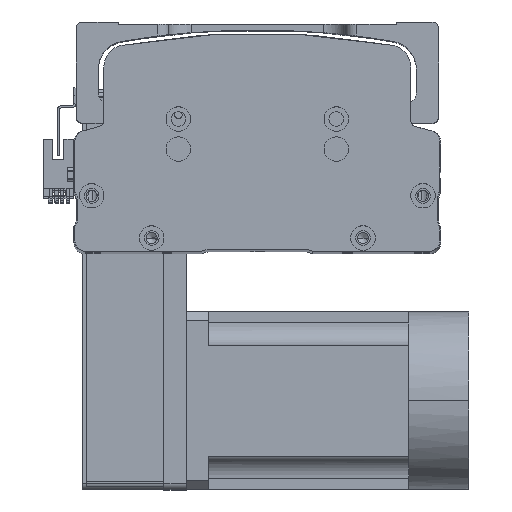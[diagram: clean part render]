
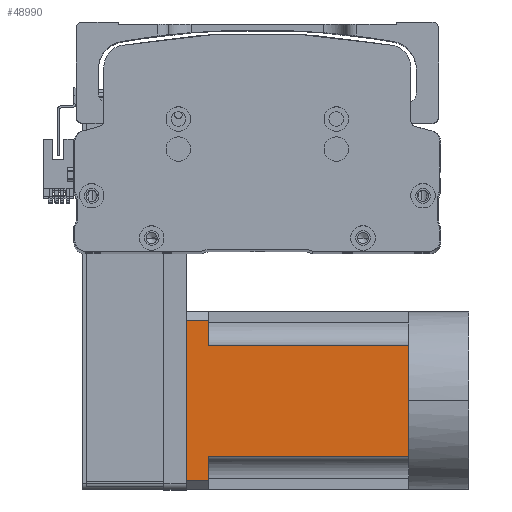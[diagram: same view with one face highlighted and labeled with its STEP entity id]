
A CAD part, top view. The second image highlights one B-rep face of the part: STEP entity #48990.
In plain terms, the highlighted planar face has unit normal (0, 0, 1) as drawn and (0, 0, -1) by its records, which use the part's own axes.
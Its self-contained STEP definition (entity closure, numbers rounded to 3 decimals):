
#1563 = VECTOR ( 'NONE', #43906, 1000. ) ;
#2230 = AXIS2_PLACEMENT_3D ( 'NONE', #14836, #5486, #38635 ) ;
#3800 = EDGE_CURVE ( 'NONE', #37871, #46071, #16933, .T. ) ;
#3891 = CARTESIAN_POINT ( 'NONE',  ( 25., 90., -40. ) ) ;
#4592 = ORIENTED_EDGE ( 'NONE', *, *, #17319, .T. ) ;
#4697 = CARTESIAN_POINT ( 'NONE',  ( -36., -27., -40. ) ) ;
#5486 = DIRECTION ( 'NONE',  ( 0., 0., -1. ) ) ;
#5772 = VECTOR ( 'NONE', #30554, 1000. ) ;
#5973 = CARTESIAN_POINT ( 'NONE',  ( -40., 0., -40. ) ) ;
#6454 = FACE_OUTER_BOUND ( 'NONE', #57874, .T. ) ;
#8564 = EDGE_CURVE ( 'NONE', #19897, #41068, #35132, .T. ) ;
#8619 = ORIENTED_EDGE ( 'NONE', *, *, #3800, .T. ) ;
#9005 = ORIENTED_EDGE ( 'NONE', *, *, #61603, .T. ) ;
#9470 = DIRECTION ( 'NONE',  ( 0., 1., 0. ) ) ;
#9513 = LINE ( 'NONE', #5973, #45843 ) ;
#9682 = ORIENTED_EDGE ( 'NONE', *, *, #59710, .T. ) ;
#9912 = VECTOR ( 'NONE', #37597, 1000. ) ;
#13191 = CARTESIAN_POINT ( 'NONE',  ( -25., 0., -40. ) ) ;
#13345 = VECTOR ( 'NONE', #50469, 1000. ) ;
#14814 = LINE ( 'NONE', #45687, #13345 ) ;
#14836 = CARTESIAN_POINT ( 'NONE',  ( -40., -27., -40. ) ) ;
#14848 = ORIENTED_EDGE ( 'NONE', *, *, #24621, .T. ) ;
#15695 = LINE ( 'NONE', #20744, #61133 ) ;
#16933 = LINE ( 'NONE', #17780, #40633 ) ;
#17319 = EDGE_CURVE ( 'NONE', #21245, #28113, #14814, .T. ) ;
#17780 = CARTESIAN_POINT ( 'NONE',  ( -40., 90., -40. ) ) ;
#19897 = VERTEX_POINT ( 'NONE', #44346 ) ;
#20744 = CARTESIAN_POINT ( 'NONE',  ( -40., 90., -40. ) ) ;
#21245 = VERTEX_POINT ( 'NONE', #28079 ) ;
#22534 = LINE ( 'NONE', #27921, #9912 ) ;
#22603 = VECTOR ( 'NONE', #9470, 1000. ) ;
#24404 = PLANE ( 'NONE',  #2230 ) ;
#24621 = EDGE_CURVE ( 'NONE', #46071, #25773, #52090, .T. ) ;
#25115 = CARTESIAN_POINT ( 'NONE',  ( -25., 90., -40. ) ) ;
#25513 = DIRECTION ( 'NONE',  ( -1., 0., 0. ) ) ;
#25773 = VERTEX_POINT ( 'NONE', #47344 ) ;
#27921 = CARTESIAN_POINT ( 'NONE',  ( -40., 100., -40. ) ) ;
#28079 = CARTESIAN_POINT ( 'NONE',  ( 0., 0., -40. ) ) ;
#28113 = VERTEX_POINT ( 'NONE', #13191 ) ;
#30554 = DIRECTION ( 'NONE',  ( 0., 1., 0. ) ) ;
#31001 = LINE ( 'NONE', #49404, #5772 ) ;
#31852 = CARTESIAN_POINT ( 'NONE',  ( -36., 100., -40. ) ) ;
#33396 = VERTEX_POINT ( 'NONE', #25115 ) ;
#33452 = EDGE_CURVE ( 'NONE', #33396, #19897, #15695, .T. ) ;
#33739 = CARTESIAN_POINT ( 'NONE',  ( 36., 90., -40. ) ) ;
#35132 = LINE ( 'NONE', #4697, #22603 ) ;
#37597 = DIRECTION ( 'NONE',  ( -1., 0., 0. ) ) ;
#37871 = VERTEX_POINT ( 'NONE', #33739 ) ;
#37876 = CARTESIAN_POINT ( 'NONE',  ( 36., 100., -40. ) ) ;
#38635 = DIRECTION ( 'NONE',  ( -1., 0., 0. ) ) ;
#38801 = EDGE_CURVE ( 'NONE', #60867, #41068, #22534, .T. ) ;
#39142 = CARTESIAN_POINT ( 'NONE',  ( 25., -27., -40. ) ) ;
#40633 = VECTOR ( 'NONE', #60385, 1000. ) ;
#41068 = VERTEX_POINT ( 'NONE', #31852 ) ;
#41721 = ORIENTED_EDGE ( 'NONE', *, *, #48543, .T. ) ;
#43906 = DIRECTION ( 'NONE',  ( 0., -1., 0. ) ) ;
#44346 = CARTESIAN_POINT ( 'NONE',  ( -36., 90., -40. ) ) ;
#45145 = ORIENTED_EDGE ( 'NONE', *, *, #33452, .T. ) ;
#45687 = CARTESIAN_POINT ( 'NONE',  ( -40., 0., -40. ) ) ;
#45843 = VECTOR ( 'NONE', #53499, 1000. ) ;
#46071 = VERTEX_POINT ( 'NONE', #3891 ) ;
#46255 = ORIENTED_EDGE ( 'NONE', *, *, #38801, .F. ) ;
#47344 = CARTESIAN_POINT ( 'NONE',  ( 25., 0., -40. ) ) ;
#48349 = LINE ( 'NONE', #51907, #59580 ) ;
#48543 = EDGE_CURVE ( 'NONE', #25773, #21245, #9513, .T. ) ;
#48990 = ADVANCED_FACE ( 'NONE', ( #6454 ), #24404, .T. ) ;
#49404 = CARTESIAN_POINT ( 'NONE',  ( -25., -27., -40. ) ) ;
#50469 = DIRECTION ( 'NONE',  ( -1., 0., 0. ) ) ;
#51907 = CARTESIAN_POINT ( 'NONE',  ( 36., -27., -40. ) ) ;
#52090 = LINE ( 'NONE', #39142, #1563 ) ;
#52959 = ORIENTED_EDGE ( 'NONE', *, *, #8564, .T. ) ;
#53499 = DIRECTION ( 'NONE',  ( -1., 0., 0. ) ) ;
#56908 = DIRECTION ( 'NONE',  ( 0., -1., 0. ) ) ;
#57874 = EDGE_LOOP ( 'NONE', ( #46255, #9682, #8619, #14848, #41721, #4592, #9005, #45145, #52959 ) ) ;
#59580 = VECTOR ( 'NONE', #56908, 1000. ) ;
#59710 = EDGE_CURVE ( 'NONE', #60867, #37871, #48349, .T. ) ;
#60385 = DIRECTION ( 'NONE',  ( -1., 0., 0. ) ) ;
#60867 = VERTEX_POINT ( 'NONE', #37876 ) ;
#61133 = VECTOR ( 'NONE', #25513, 1000. ) ;
#61603 = EDGE_CURVE ( 'NONE', #28113, #33396, #31001, .T. ) ;
